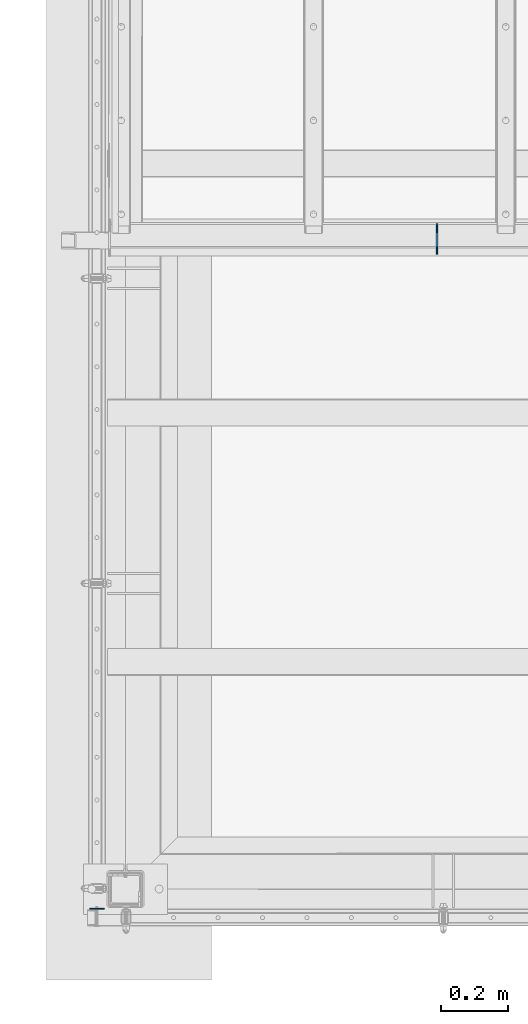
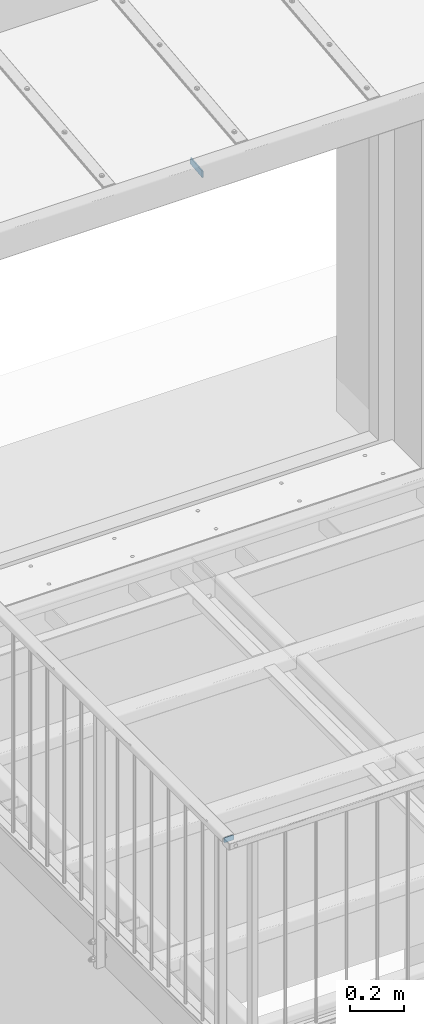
# One storey, part 26 of 116: 2 plates, 4 openings.
"""IFC2X3 building model written with IfcOpenShell, lengths in millimetres."""

from ifc_helpers import new_model, entity, si_unit, converted_unit, point, frame, frame_2d, origin, origin_with_axes, place, context, project, spatial, polyline, circle_curve, line_curve, trimmed, segment, composite_curve, outline, extrude, material, layer, layer_set, element, save


model = new_model("IFC2X3")

# Units and contexts
model_context = context("Model", 3, precision=1e-09, world=origin_with_axes())
ifc_project = project(units=[si_unit("LENGTHUNIT", "METRE", prefix="MILLI"), si_unit("AREAUNIT", "SQUARE_METRE"), si_unit("VOLUMEUNIT", "CUBIC_METRE"), converted_unit("PLANEANGLEUNIT", "DEGREE", entity("IfcPlaneAngleMeasure", 0.01745329), si_unit("PLANEANGLEUNIT", "RADIAN"), dimensions=[0, 0, 0, 0, 0, 0, 0])], contexts=[model_context])

# Site, building, storey
site_placement = place(None, origin_with_axes())
site = spatial("IfcSite", under=ifc_project, at=site_placement, Name="Site", CompositionType="ELEMENT")
building_placement = place(site_placement, origin_with_axes())
building = spatial("IfcBuilding", under=site, at=building_placement, Name="Struktur 1", CompositionType="ELEMENT")
storey_placement = place(building_placement, origin_with_axes())
storey = spatial("IfcBuildingStorey", under=building, at=storey_placement, Name="Default Storey", CompositionType="ELEMENT", Elevation=0.0)

# Plate
ifc_material = material(Name="S235JR")
ifc_layer_1 = layer(ifc_material, 5.0)
ifc_layer_set_1 = layer_set([ifc_layer_1], Name="S235JR")
plate_1_placement = place(None, frame((56264.549135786, 11105.893620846, 2498.978607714), z_axis=(-1.0, 0.0, 0.0), x_axis=(0.0, 0.104528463, -0.994521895)))
element("IfcPlate", 1, at=plate_1_placement, inside=storey, material=ifc_layer_set_1, Name="-", ObjectType="-", context=model_context, shape_type="SweptSolid", body=[
    extrude(outline(polyline([(0.0, 0.0), (30.0, 0.0), (30.000000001, 91.170030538), (2e-09, 88.016903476), (0.0, 0.0)])), origin_with_axes(), (0.0, 0.0, 1.0), 5.0),
])

# Plate, openings
ifc_layer_2 = layer(ifc_material, 3.0)
ifc_layer_set_2 = layer_set([ifc_layer_2], Name="S235JR")
plate_2_placement = place(None, frame((55252.049134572, 9075.358883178, 980.0), z_axis=(0.0, -1.0, 0.0), x_axis=(1.0, 0.0, 0.0)))
plate_2 = element("IfcPlate", 2, at=plate_2_placement, inside=storey, material=ifc_layer_set_2, Name="-", ObjectType="-", context=model_context, shape_type="SweptSolid", body=[
    extrude(outline(polyline([(-21.5, -11.5), (21.5, -11.5), (21.5, 11.5), (-21.5, 11.5), (-21.5, -11.5)])), origin_with_axes(), (0.0, 0.0, 1.0), 3.0),
])
opening_1_placement = place(plate_2_placement, frame((0.0, 0.0, -0.01), z_axis=(0.0, 0.0, 1.0), x_axis=(1.0, 0.0, 0.0)))
element("IfcOpeningElement", 3, at=opening_1_placement, cuts=plate_2, ObjectType="Opening", context=model_context, shape_type="SweptSolid", body=[
    extrude(outline(composite_curve([segment(trimmed(line_curve((-21.5, 11.5), (0.0, -1.0), 3.0), [point((-21.5, 11.5))], [point((-21.5, 8.5))], True, "CARTESIAN"), True, "CONTINUOUS"), segment(trimmed(circle_curve(frame_2d((-18.5, 8.5), x_axis=(-1.0, 0.0)), 3.0), [point((-21.5, 8.5))], [point((-18.5, 11.5))], False, "CARTESIAN"), True, "CONTINUOUS"), segment(trimmed(line_curve((-18.5, 11.5), (-1.0, 0.0), 3.0), [point((-18.5, 11.5))], [point((-21.5, 11.5))], True, "CARTESIAN"), True, "CONTINUOUS")], self_intersect=False)), origin(), (0.0, 0.0, 1.0), 3.02),
])
opening_2_placement = place(plate_2_placement, frame((0.0, 0.0, -0.01), z_axis=(0.0, 0.0, 1.0), x_axis=(1.0, 0.0, 0.0)))
element("IfcOpeningElement", 4, at=opening_2_placement, cuts=plate_2, ObjectType="Opening", context=model_context, shape_type="SweptSolid", body=[
    extrude(outline(composite_curve([segment(trimmed(line_curve((21.5, 11.5), (-1.0, 0.0), 3.0), [point((21.5, 11.5))], [point((18.5, 11.5))], True, "CARTESIAN"), True, "CONTINUOUS"), segment(trimmed(circle_curve(frame_2d((18.5, 8.5), x_axis=(-1.0, 0.0)), 3.0), [point((18.5, 11.5))], [point((21.5, 8.5))], False, "CARTESIAN"), True, "CONTINUOUS"), segment(trimmed(line_curve((21.5, 8.5), (0.0, 1.0), 3.0), [point((21.5, 8.5))], [point((21.5, 11.5))], True, "CARTESIAN"), True, "CONTINUOUS")], self_intersect=False)), origin(), (0.0, 0.0, 1.0), 3.02),
])
opening_3_placement = place(plate_2_placement, frame((0.0, 0.0, -0.01), z_axis=(0.0, 0.0, 1.0), x_axis=(1.0, 0.0, 0.0)))
element("IfcOpeningElement", 5, at=opening_3_placement, cuts=plate_2, ObjectType="Opening", context=model_context, shape_type="SweptSolid", body=[
    extrude(outline(composite_curve([segment(trimmed(line_curve((21.5, -11.5), (0.0, 1.0), 3.0), [point((21.5, -11.5))], [point((21.5, -8.5))], True, "CARTESIAN"), True, "CONTINUOUS"), segment(trimmed(circle_curve(frame_2d((18.5, -8.5), x_axis=(-1.0, 0.0)), 3.0), [point((21.5, -8.5))], [point((18.5, -11.5))], False, "CARTESIAN"), True, "CONTINUOUS"), segment(trimmed(line_curve((18.5, -11.5), (1.0, 0.0), 3.0), [point((18.5, -11.5))], [point((21.5, -11.5))], True, "CARTESIAN"), True, "CONTINUOUS")], self_intersect=False)), origin(), (0.0, 0.0, 1.0), 3.02),
])
opening_4_placement = place(plate_2_placement, frame((0.0, 0.0, -0.01), z_axis=(0.0, 0.0, 1.0), x_axis=(1.0, 0.0, 0.0)))
element("IfcOpeningElement", 6, at=opening_4_placement, cuts=plate_2, ObjectType="Opening", context=model_context, shape_type="SweptSolid", body=[
    extrude(outline(composite_curve([segment(trimmed(line_curve((-21.5, -11.5), (1.0, 0.0), 3.0), [point((-21.5, -11.5))], [point((-18.5, -11.5))], True, "CARTESIAN"), True, "CONTINUOUS"), segment(trimmed(circle_curve(frame_2d((-18.5, -8.5), x_axis=(-1.0, 0.0)), 3.0), [point((-18.5, -11.5))], [point((-21.5, -8.5))], False, "CARTESIAN"), True, "CONTINUOUS"), segment(trimmed(line_curve((-21.5, -8.5), (0.0, -1.0), 3.0), [point((-21.5, -8.5))], [point((-21.5, -11.5))], True, "CARTESIAN"), True, "CONTINUOUS")], self_intersect=False)), origin(), (0.0, 0.0, 1.0), 3.02),
])

save(model, "model.ifc")
